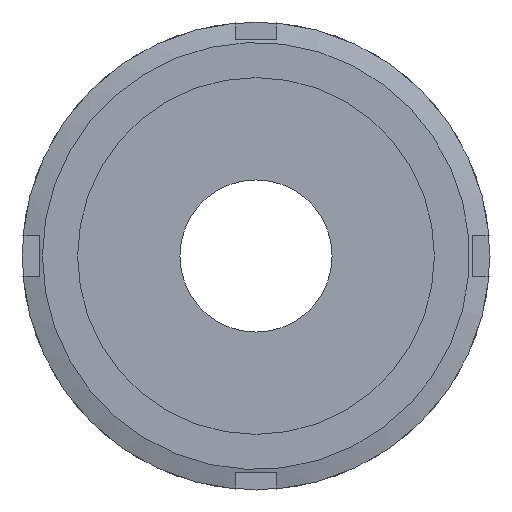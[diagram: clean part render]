
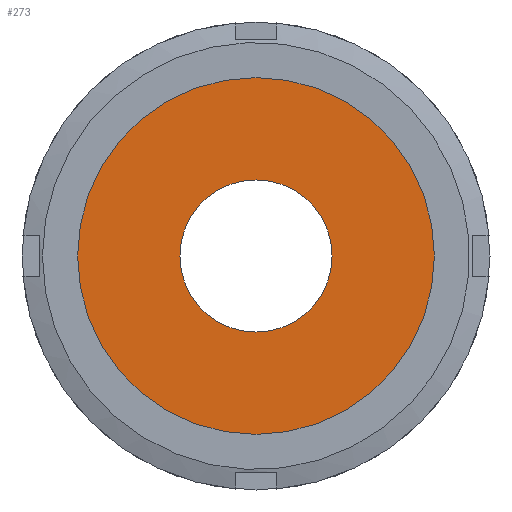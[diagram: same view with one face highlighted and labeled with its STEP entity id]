
A CAD part, left-side view. The second image highlights one B-rep face of the part: STEP entity #273.
In plain terms, the highlighted planar face has unit normal (-1, 0, 0) as drawn and (0, -1, 0) by its records, which use the part's own axes.
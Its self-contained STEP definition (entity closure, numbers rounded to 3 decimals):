
#273 = ADVANCED_FACE( '', ( #402, #403 ), #404, .T. );
#402 = FACE_OUTER_BOUND( '', #610, .T. );
#403 = FACE_BOUND( '', #611, .T. );
#404 = PLANE( '', #612 );
#610 = EDGE_LOOP( '', ( #961 ) );
#611 = EDGE_LOOP( '', ( #962 ) );
#612 = AXIS2_PLACEMENT_3D( '', #963, #964, #965 );
#961 = ORIENTED_EDGE( '', *, *, #1422, .T. );
#962 = ORIENTED_EDGE( '', *, *, #1423, .F. );
#963 = CARTESIAN_POINT( '', ( 13., 0., 0. ) );
#964 = DIRECTION( '', ( 0., -1., 0. ) );
#965 = DIRECTION( '', ( 0., 0., -1. ) );
#1422 = EDGE_CURVE( '', #1649, #1649, #1650, .T. );
#1423 = EDGE_CURVE( '', #1651, #1651, #1652, .T. );
#1649 = VERTEX_POINT( '', #2105 );
#1650 = CIRCLE( '', #2106, 30.5 );
#1651 = VERTEX_POINT( '', #2107 );
#1652 = CIRCLE( '', #2108, 13. );
#2105 = CARTESIAN_POINT( '', ( 0., 0., -30.5 ) );
#2106 = AXIS2_PLACEMENT_3D( '', #2580, #2581, #2582 );
#2107 = CARTESIAN_POINT( '', ( 0., 0., -13. ) );
#2108 = AXIS2_PLACEMENT_3D( '', #2583, #2584, #2585 );
#2580 = CARTESIAN_POINT( '', ( 0., 0., 0. ) );
#2581 = DIRECTION( '', ( 0., -1., 0. ) );
#2582 = DIRECTION( '', ( 0., 0., -1. ) );
#2583 = CARTESIAN_POINT( '', ( 0., 0., 0. ) );
#2584 = DIRECTION( '', ( 0., -1., 0. ) );
#2585 = DIRECTION( '', ( 0., 0., -1. ) );
